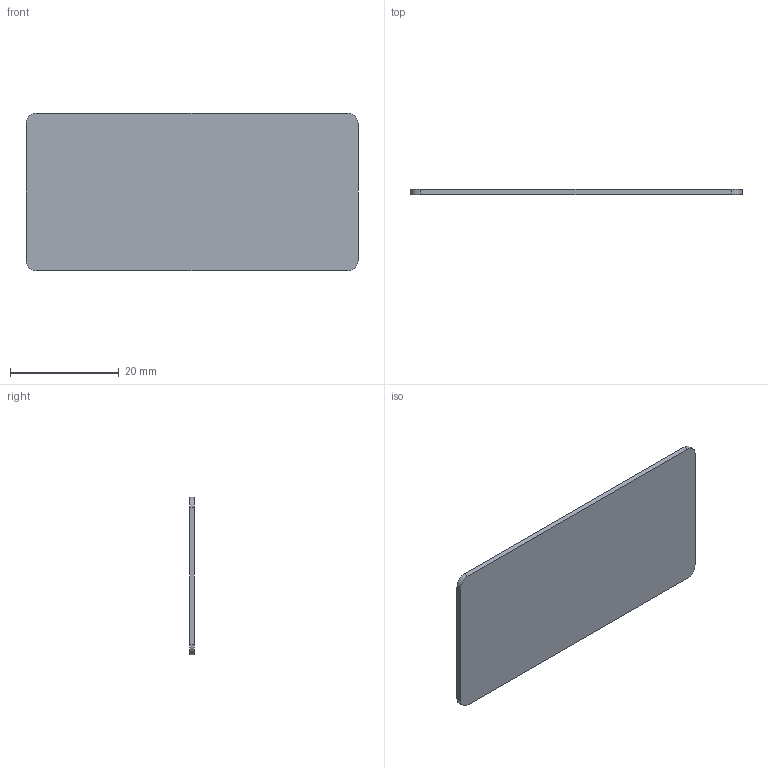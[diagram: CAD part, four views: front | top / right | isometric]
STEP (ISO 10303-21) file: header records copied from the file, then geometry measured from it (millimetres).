
FILE_DESCRIPTION(('Open CASCADE Model'),'2;1');
FILE_NAME('Open CASCADE Shape Model','2026-11-07T14:08:16',('Author'),( 'Open CASCADE'),'Open CASCADE STEP processor 7.9','Open CASCADE 7.9' ,'Unknown');
FILE_SCHEMA(('AUTOMOTIVE_DESIGN { 1 0 10303 214 1 1 1 1 }'));
Length unit declared in the file: millimetre
Products named in the file (1): Open CASCADE STEP translator 7.9 28
Bounding box: 61 x 0.9 x 29 mm (x, y, z)
Volume: 1589 mm3; surface area: 3690 mm2
Topology: 1 solids, 1 shells, 10 faces, 24 edges, 16 vertices
Faces by surface type: plane 6, cylinder 4
Entity records: 630 total; most frequent: CARTESIAN_POINT 123, DIRECTION 98, LINE 56, VECTOR 56, ORIENTED_EDGE 48, PCURVE 48, DEFINITIONAL_REPRESENTATION 48, EDGE_CURVE 24
